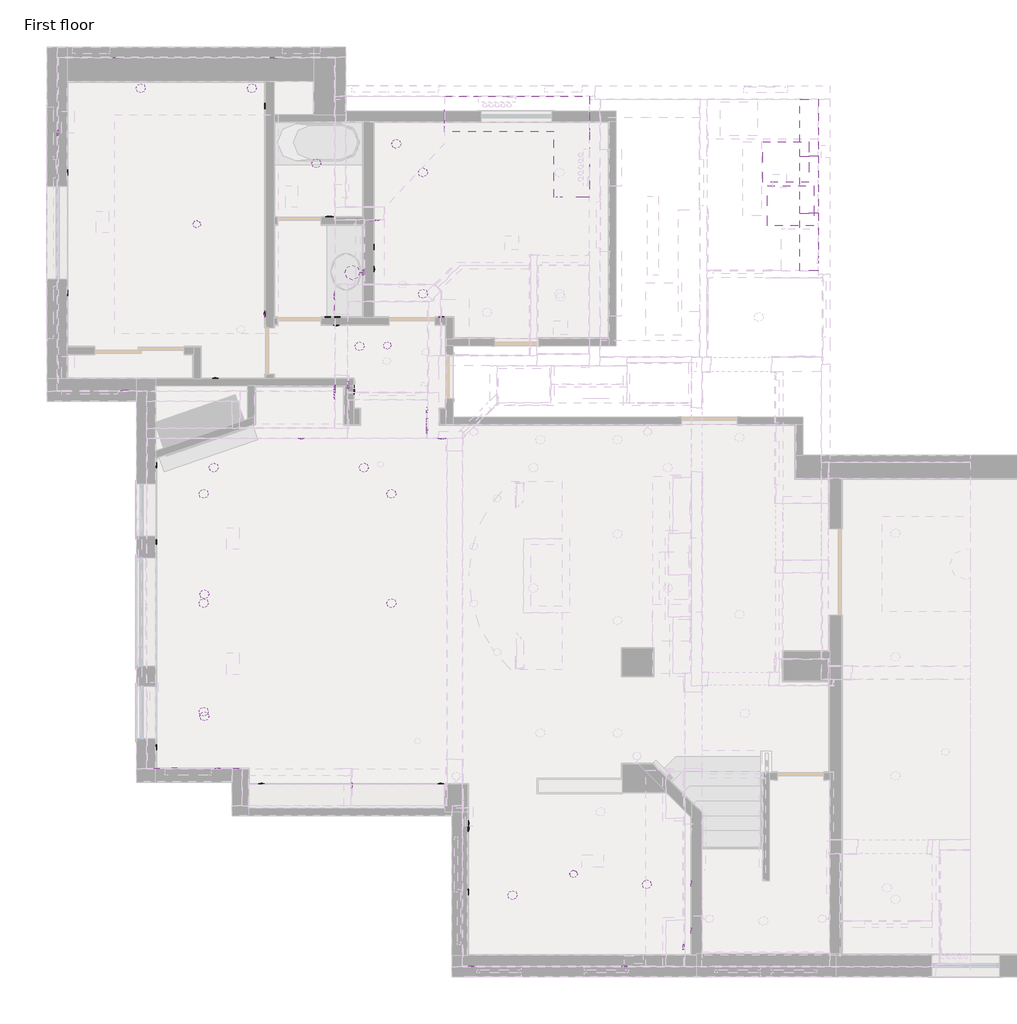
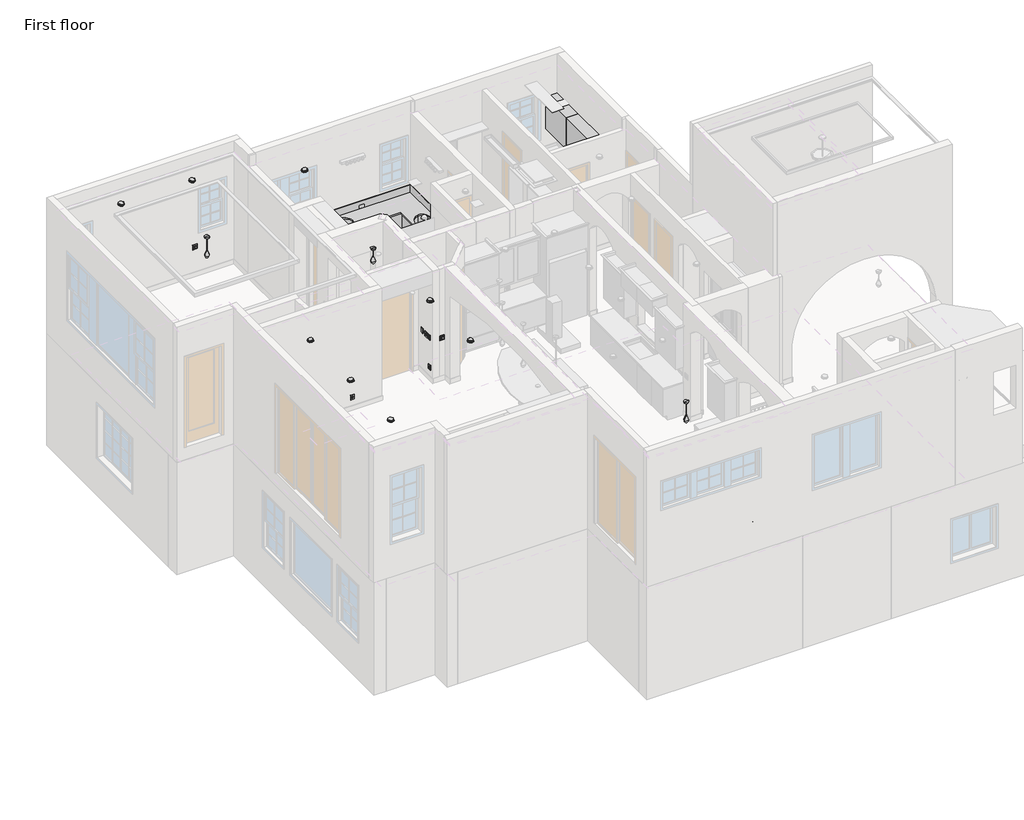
# One storey, part 12 of 14: 53 proxies, 22 light fixtures, 4 furniture elements.
"""IFC4 building model written with IfcOpenShell, lengths in millimetres."""

from ifc_helpers import new_model, si_unit, point, frame, origin, place, context, project, spatial, polyline, ellipse_curve, trimmed, outline, extrude, transform, mapped, element, save
from ifc_brep_helpers import plane_surface, extruded_surface, advanced_brep
from components import specialty_equipment_1_specialty_equipment_1_ee93a8f8, switch_1_switch_1_61bf59a5, switch_18_switch_18_b948fae5, switch_20_switch_20_01105299, switch_22_switch_22_d8a24c8f, switch_3_switch_3_40792009, switch_4_switch_4_f86bb9e3, switch_6_switch_6_ad3d04ee, casework_2_casework_2_be9bbc3e, lighting_fixtures_pendant_lamp_art_glass_led_light_7_c276613a, lighting_fixtures_pendant_lamp_art_glass_led_light_8_7261f393, m_recessed_lamp_round_led_light_2_4ee42974, m_wall_lamp_bracket_wall_light_1_86392911

model = new_model("IFC4")

# Units and contexts
model_context = context("Model", 3, world=origin())
ifc_project = project(units=[si_unit("LENGTHUNIT", "METRE", prefix="MILLI")], contexts=[model_context])

# Site, building, storey
site = spatial("IfcSite", under=ifc_project)
building = spatial("IfcBuilding", under=site)
storey = spatial("IfcBuildingStorey", under=building, Name="First floor", Elevation=0.0)

# Proxies
placement = place(None, origin())
specialty_equipment_1_specialty_equipment_1_shape = specialty_equipment_1_specialty_equipment_1_ee93a8f8(model_context)
element("IfcBuildingElementProxy", 1, Name="Specialty Equipment_1 : Specialty Equipment_1", ObjectType="Specialty Equipment_1 : Specialty Equipment_1", at=placement, inside=storey, context=model_context, shape_type="MappedRepresentation", body=[
    mapped(specialty_equipment_1_specialty_equipment_1_shape, transform((5105.4, 13392.0447939, 3251.2), x_axis=(0.0, 1.0, 0.0), y_axis=(-1.0, 0.0, 0.0), z_axis=(0.0, 0.0, 1.0))),
])
element("IfcBuildingElementProxy", 2, Name="Specialty Equipment_1 : Specialty Equipment_1", ObjectType="Specialty Equipment_1 : Specialty Equipment_1", at=placement, inside=storey, context=model_context, shape_type="MappedRepresentation", body=[
    mapped(specialty_equipment_1_specialty_equipment_1_shape, transform((5181.6, 12674.4947939, 3251.2), x_axis=(0.0, 1.0, 0.0), y_axis=(-1.0, 0.0, 0.0), z_axis=(0.0, 0.0, 1.0))),
])
switch_1_switch_1_shape = switch_1_switch_1_61bf59a5(model_context)
element("IfcBuildingElementProxy", 3, Name="Switch 1 : Switch 1", ObjectType="Switch 1 : Switch 1", at=placement, inside=storey, context=model_context, shape_type="MappedRepresentation", body=[
    mapped(switch_1_switch_1_shape, transform((-4876.7823944, 8411.963, 1104.9), x_axis=(0.0, -1.0, 0.0), y_axis=(1.0, 0.0, 0.0), z_axis=(0.0, 0.0, 1.0))),
])
element("IfcBuildingElementProxy", 4, Name="Switch 1 : Switch 1", ObjectType="Switch 1 : Switch 1", at=placement, inside=storey, context=model_context, shape_type="MappedRepresentation", body=[
    mapped(switch_1_switch_1_shape, transform((-1612.9, 9672.837, 292.1), x_axis=(0.0, 1.0, 0.0), y_axis=(-1.0, 0.0, 0.0), z_axis=(0.0, 0.0, 1.0))),
])
element("IfcBuildingElementProxy", 5, Name="Switch 1 : Switch 1", ObjectType="Switch 1 : Switch 1", at=placement, inside=storey, context=model_context, shape_type="MappedRepresentation", body=[
    mapped(switch_1_switch_1_shape, transform((-3073.4, 10892.037, 1320.8), x_axis=(0.0, 1.0, 0.0), y_axis=(-1.0, 0.0, 0.0), z_axis=(0.0, 0.0, 1.0))),
])
element("IfcBuildingElementProxy", 6, Name="Switch 1 : Switch 1", ObjectType="Switch 1 : Switch 1", at=placement, inside=storey, context=model_context, shape_type="MappedRepresentation", body=[
    mapped(switch_1_switch_1_shape, transform((-1896.863, 10833.1, 1079.5), x_axis=(1.0, 0.0, 0.0), y_axis=(0.0, 1.0, 0.0), z_axis=(0.0, 0.0, 1.0))),
])
element("IfcBuildingElementProxy", 7, Name="Switch 1 : Switch 1", ObjectType="Switch 1 : Switch 1", at=placement, inside=storey, context=model_context, shape_type="MappedRepresentation", body=[
    mapped(switch_1_switch_1_shape, transform((-182.363, 10833.1, 1282.7), x_axis=(1.0, 0.0, 0.0), y_axis=(0.0, 1.0, 0.0), z_axis=(0.0, 0.0, 1.0))),
])
element("IfcBuildingElementProxy", 8, Name="Switch 1 : Switch 1", ObjectType="Switch 1 : Switch 1", at=placement, inside=storey, context=model_context, shape_type="MappedRepresentation", body=[
    mapped(switch_1_switch_1_shape, transform((-1295.4, 11999.713, 292.1), x_axis=(0.0, -1.0, 0.0), y_axis=(1.0, 0.0, 0.0), z_axis=(0.0, 0.0, 1.0))),
])
element("IfcBuildingElementProxy", 9, Name="Switch 1 : Switch 1", ObjectType="Switch 1 : Switch 1", at=placement, inside=storey, context=model_context, shape_type="MappedRepresentation", body=[
    mapped(switch_1_switch_1_shape, transform((3936.9996704, 1525.787, 1384.3), x_axis=(0.0, 1.0, 0.0), y_axis=(-1.0, 0.0, 0.0), z_axis=(0.0, 0.0, 1.0))),
])
element("IfcBuildingElementProxy", 10, Name="Switch 1 : Switch 1", ObjectType="Switch 1 : Switch 1", at=placement, inside=storey, context=model_context, shape_type="MappedRepresentation", body=[
    mapped(switch_1_switch_1_shape, transform((3936.9996704, 757.437, 1384.3), x_axis=(0.0, 1.0, 0.0), y_axis=(-1.0, 0.0, 0.0), z_axis=(0.0, 0.0, 1.0))),
])
element("IfcBuildingElementProxy", 11, Name="Switch 1 : Switch 1", ObjectType="Switch 1 : Switch 1", at=placement, inside=storey, context=model_context, shape_type="MappedRepresentation", body=[
    mapped(switch_1_switch_1_shape, transform((-1924.05, 11222.237, 3543.3), x_axis=(0.0, 1.0, 0.0), y_axis=(-1.0, 0.0, 0.0), z_axis=(0.0, 0.0, 1.0))),
])
element("IfcBuildingElementProxy", 12, Name="Switch 1 : Switch 1", ObjectType="Switch 1 : Switch 1", at=placement, inside=storey, context=model_context, shape_type="MappedRepresentation", body=[
    mapped(switch_1_switch_1_shape, transform((-1924.05, 10993.637, 4305.3), x_axis=(0.0, 1.0, 0.0), y_axis=(-1.0, 0.0, 0.0), z_axis=(0.0, 0.0, 1.0))),
])
element("IfcBuildingElementProxy", 13, Name="Switch 1 : Switch 1", ObjectType="Switch 1 : Switch 1", at=placement, inside=storey, context=model_context, shape_type="MappedRepresentation", body=[
    mapped(switch_1_switch_1_shape, transform((-3554.213, 3416.3, 3581.4), x_axis=(1.0, 0.0, 0.0), y_axis=(0.0, 1.0, 0.0), z_axis=(0.0, 0.0, 1.0))),
])
element("IfcBuildingElementProxy", 14, Name="Switch 1 : Switch 1", ObjectType="Switch 1 : Switch 1", at=placement, inside=storey, context=model_context, shape_type="MappedRepresentation", body=[
    mapped(switch_1_switch_1_shape, transform((-4862.313, 3416.3, 3556.0), x_axis=(1.0, 0.0, 0.0), y_axis=(0.0, 1.0, 0.0), z_axis=(0.0, 0.0, 1.0))),
])
element("IfcBuildingElementProxy", 15, Name="Switch 1 : Switch 1", ObjectType="Switch 1 : Switch 1", at=placement, inside=storey, context=model_context, shape_type="MappedRepresentation", body=[
    mapped(switch_1_switch_1_shape, transform((-406.4, 9310.887, 4356.1), x_axis=(0.0, 1.0, 0.0), y_axis=(-1.0, 0.0, 0.0), z_axis=(0.0, 0.0, 1.0))),
])
switch_18_switch_18_shape = switch_18_switch_18_b948fae5(model_context)
element("IfcBuildingElementProxy", 16, Name="Switch 18 : Switch 18", ObjectType="Switch 18 : Switch 18", at=placement, inside=storey, context=model_context, shape_type="MappedRepresentation", body=[
    mapped(switch_18_switch_18_shape, transform((3810.0, 492.4529797, 4330.7), x_axis=(0.0, 1.0, 0.0), y_axis=(-1.0, 0.0, 0.0), z_axis=(0.0, 0.0, 1.0))),
])
switch_20_switch_20_shape = switch_20_switch_20_01105299(model_context)
element("IfcBuildingElementProxy", 17, Name="Switch 20 : Switch 20", ObjectType="Switch 20 : Switch 20", at=placement, inside=storey, context=model_context, shape_type="MappedRepresentation", body=[
    mapped(switch_20_switch_20_shape, transform((254.0176056, 2472.3806452, 977.9), x_axis=(0.0, -1.0, 0.0), y_axis=(1.0, 0.0, 0.0), z_axis=(0.0, 0.0, 1.0))),
])
switch_22_switch_22_shape = switch_22_switch_22_d8a24c8f(model_context)
element("IfcBuildingElementProxy", 18, Name="Switch 22 : Switch 22", ObjectType="Switch 22 : Switch 22", at=placement, inside=storey, context=model_context, shape_type="MappedRepresentation", body=[
    mapped(switch_22_switch_22_shape, transform((-1924.05, 9583.982358, 4318.0), x_axis=(0.0, 1.0, 0.0), y_axis=(-1.0, 0.0, 0.0), z_axis=(0.0, 0.0, 1.0))),
])
element("IfcBuildingElementProxy", 19, Name="Switch 22 : Switch 22", ObjectType="Switch 22 : Switch 22", at=placement, inside=storey, context=model_context, shape_type="MappedRepresentation", body=[
    mapped(switch_22_switch_22_shape, transform((-1284.532358, 12445.8947939, 4254.5), x_axis=(-1.0, 0.0, 0.0), y_axis=(0.0, -1.0, 0.0), z_axis=(0.0, 0.0, 1.0))),
])
element("IfcBuildingElementProxy", 20, Name="Switch 22 : Switch 22", ObjectType="Switch 22 : Switch 22", at=placement, inside=storey, context=model_context, shape_type="MappedRepresentation", body=[
    mapped(switch_22_switch_22_shape, transform((-406.4, 9056.932358, 4356.1), x_axis=(0.0, 1.0, 0.0), y_axis=(-1.0, 0.0, 0.0), z_axis=(0.0, 0.0, 1.0))),
])
switch_3_switch_3_shape = switch_3_switch_3_40792009(model_context)
element("IfcBuildingElementProxy", 21, Name="Switch 3 : Switch 3", ObjectType="Switch 3 : Switch 3", at=placement, inside=storey, context=model_context, shape_type="MappedRepresentation", body=[
    mapped(switch_3_switch_3_shape, transform((-3073.4, 10900.4771692, 1079.5), x_axis=(0.0, 1.0, 0.0), y_axis=(-1.0, 0.0, 0.0), z_axis=(0.0, 0.0, 1.0))),
])
element("IfcBuildingElementProxy", 22, Name="Switch 3 : Switch 3", ObjectType="Switch 3 : Switch 3", at=placement, inside=storey, context=model_context, shape_type="MappedRepresentation", body=[
    mapped(switch_3_switch_3_shape, transform((-2040.8228308, 10833.1, 1079.5), x_axis=(1.0, 0.0, 0.0), y_axis=(0.0, 1.0, 0.0), z_axis=(0.0, 0.0, 1.0))),
])
element("IfcBuildingElementProxy", 23, Name="Switch 3 : Switch 3", ObjectType="Switch 3 : Switch 3", at=placement, inside=storey, context=model_context, shape_type="MappedRepresentation", body=[
    mapped(switch_3_switch_3_shape, transform((-173.9228308, 10833.1, 1079.5), x_axis=(1.0, 0.0, 0.0), y_axis=(0.0, 1.0, 0.0), z_axis=(0.0, 0.0, 1.0))),
])
element("IfcBuildingElementProxy", 24, Name="Switch 3 : Switch 3", ObjectType="Switch 3 : Switch 3", at=placement, inside=storey, context=model_context, shape_type="MappedRepresentation", body=[
    mapped(switch_3_switch_3_shape, transform((-3850.5728308, 3416.3, 4356.1), x_axis=(1.0, 0.0, 0.0), y_axis=(0.0, 1.0, 0.0), z_axis=(0.0, 0.0, 1.0))),
])
switch_4_switch_4_shape = switch_4_switch_4_f86bb9e3(model_context)
element("IfcBuildingElementProxy", 25, Name="Switch 4 : Switch 4", ObjectType="Switch 4 : Switch 4", at=placement, inside=storey, context=model_context, shape_type="MappedRepresentation", body=[
    mapped(switch_4_switch_4_shape, transform((-4876.8, 7146.5970203, 292.1006729), x_axis=(0.0, -1.0, 0.0), y_axis=(1.0, 0.0, 0.0), z_axis=(0.0, 0.0, 1.0))),
])
element("IfcBuildingElementProxy", 26, Name="Switch 4 : Switch 4", ObjectType="Switch 4 : Switch 4", at=placement, inside=storey, context=model_context, shape_type="MappedRepresentation", body=[
    mapped(switch_4_switch_4_shape, transform((-4876.8, 3768.3970203, 292.1006729), x_axis=(0.0, -1.0, 0.0), y_axis=(1.0, 0.0, 0.0), z_axis=(0.0, 0.0, 1.0))),
])
element("IfcBuildingElementProxy", 27, Name="Switch 4 : Switch 4", ObjectType="Switch 4 : Switch 4", at=placement, inside=storey, context=model_context, shape_type="MappedRepresentation", body=[
    mapped(switch_4_switch_4_shape, transform((-4568.4970203, 3416.3, 292.1006729), x_axis=(1.0, 0.0, 0.0), y_axis=(0.0, 1.0, 0.0), z_axis=(0.0, 0.0, 1.0))),
])
element("IfcBuildingElementProxy", 28, Name="Switch 4 : Switch 4", ObjectType="Switch 4 : Switch 4", at=placement, inside=storey, context=model_context, shape_type="MappedRepresentation", body=[
    mapped(switch_4_switch_4_shape, transform((-3133.3970203, 3162.3176056, 292.1006729), x_axis=(1.0, 0.0, 0.0), y_axis=(0.0, 1.0, 0.0), z_axis=(0.0, 0.0, 1.0))),
])
element("IfcBuildingElementProxy", 29, Name="Switch 4 : Switch 4", ObjectType="Switch 4 : Switch 4", at=placement, inside=storey, context=model_context, shape_type="MappedRepresentation", body=[
    mapped(switch_4_switch_4_shape, transform((-186.9970203, 3162.3, 292.1006729), x_axis=(1.0, 0.0, 0.0), y_axis=(0.0, 1.0, 0.0), z_axis=(0.0, 0.0, 1.0))),
])
element("IfcBuildingElementProxy", 30, Name="Switch 4 : Switch 4", ObjectType="Switch 4 : Switch 4", at=placement, inside=storey, context=model_context, shape_type="MappedRepresentation", body=[
    mapped(switch_4_switch_4_shape, transform((254.0, 1387.1470203, 292.1006729), x_axis=(0.0, -1.0, 0.0), y_axis=(1.0, 0.0, 0.0), z_axis=(0.0, 0.0, 1.0))),
])
element("IfcBuildingElementProxy", 31, Name="Switch 4 : Switch 4", ObjectType="Switch 4 : Switch 4", at=placement, inside=storey, context=model_context, shape_type="MappedRepresentation", body=[
    mapped(switch_4_switch_4_shape, transform((-1908.5029797, 10718.8, 292.1), x_axis=(-1.0, 0.0, 0.0), y_axis=(0.0, -1.0, 0.0), z_axis=(0.0, 0.0, 1.0))),
])
element("IfcBuildingElementProxy", 32, Name="Switch 4 : Switch 4", ObjectType="Switch 4 : Switch 4", at=placement, inside=storey, context=model_context, shape_type="MappedRepresentation", body=[
    mapped(switch_4_switch_4_shape, transform((-3895.3970203, 9829.8, 292.1), x_axis=(1.0, 0.0, 0.0), y_axis=(0.0, 1.0, 0.0), z_axis=(0.0, 0.0, 1.0))),
])
element("IfcBuildingElementProxy", 33, Name="Switch 4 : Switch 4", ObjectType="Switch 4 : Switch 4", at=placement, inside=storey, context=model_context, shape_type="MappedRepresentation", body=[
    mapped(switch_4_switch_4_shape, transform((-3073.4, 14316.4029797, 292.1), x_axis=(0.0, 1.0, 0.0), y_axis=(-1.0, 0.0, 0.0), z_axis=(0.0, 0.0, 1.0))),
])
element("IfcBuildingElementProxy", 34, Name="Switch 4 : Switch 4", ObjectType="Switch 4 : Switch 4", at=placement, inside=storey, context=model_context, shape_type="MappedRepresentation", body=[
    mapped(switch_4_switch_4_shape, transform((-6337.3, 13217.1970203, 292.1), x_axis=(0.0, -1.0, 0.0), y_axis=(1.0, 0.0, 0.0), z_axis=(0.0, 0.0, 1.0))),
])
element("IfcBuildingElementProxy", 35, Name="Switch 4 : Switch 4", ObjectType="Switch 4 : Switch 4", at=placement, inside=storey, context=model_context, shape_type="MappedRepresentation", body=[
    mapped(switch_4_switch_4_shape, transform((-6337.3, 11235.9970203, 292.1), x_axis=(0.0, -1.0, 0.0), y_axis=(1.0, 0.0, 0.0), z_axis=(0.0, 0.0, 1.0))),
])
element("IfcBuildingElementProxy", 36, Name="Switch 4 : Switch 4", ObjectType="Switch 4 : Switch 4", at=placement, inside=storey, context=model_context, shape_type="MappedRepresentation", body=[
    mapped(switch_4_switch_4_shape, transform((-1295.4, 11629.6970203, 292.1), x_axis=(0.0, -1.0, 0.0), y_axis=(1.0, 0.0, 0.0), z_axis=(0.0, 0.0, 1.0))),
])
element("IfcBuildingElementProxy", 37, Name="Switch 4 : Switch 4", ObjectType="Switch 4 : Switch 4", at=placement, inside=storey, context=model_context, shape_type="MappedRepresentation", body=[
    mapped(switch_4_switch_4_shape, transform((-5537.2, 15113.0, 4000.5), x_axis=(-1.0, 0.0, 0.0), y_axis=(0.0, -1.0, 0.0), z_axis=(0.0, 0.0, 1.0))),
])
element("IfcBuildingElementProxy", 38, Name="Switch 4 : Switch 4", ObjectType="Switch 4 : Switch 4", at=placement, inside=storey, context=model_context, shape_type="MappedRepresentation", body=[
    mapped(switch_4_switch_4_shape, transform((-6496.05, 13864.8970203, 3543.3), x_axis=(0.0, -1.0, 0.0), y_axis=(1.0, 0.0, 0.0), z_axis=(0.0, 0.0, 1.0))),
])
element("IfcBuildingElementProxy", 39, Name="Switch 4 : Switch 4", ObjectType="Switch 4 : Switch 4", at=placement, inside=storey, context=model_context, shape_type="MappedRepresentation", body=[
    mapped(switch_4_switch_4_shape, transform((-5397.5, 9626.6, 3543.3), x_axis=(1.0, 0.0, 0.0), y_axis=(0.0, 1.0, 0.0), z_axis=(0.0, 0.0, 1.0))),
])
element("IfcBuildingElementProxy", 40, Name="Switch 4 : Switch 4", ObjectType="Switch 4 : Switch 4", at=placement, inside=storey, context=model_context, shape_type="MappedRepresentation", body=[
    mapped(switch_4_switch_4_shape, transform((-1924.05, 9693.6029797, 3543.3), x_axis=(0.0, 1.0, 0.0), y_axis=(-1.0, 0.0, 0.0), z_axis=(0.0, 0.0, 1.0))),
])
element("IfcBuildingElementProxy", 41, Name="Switch 4 : Switch 4", ObjectType="Switch 4 : Switch 4", at=placement, inside=storey, context=model_context, shape_type="MappedRepresentation", body=[
    mapped(switch_4_switch_4_shape, transform((-1924.05, 11001.7029797, 3543.3), x_axis=(0.0, 1.0, 0.0), y_axis=(-1.0, 0.0, 0.0), z_axis=(0.0, 0.0, 1.0))),
])
element("IfcBuildingElementProxy", 42, Name="Switch 4 : Switch 4", ObjectType="Switch 4 : Switch 4", at=placement, inside=storey, context=model_context, shape_type="MappedRepresentation", body=[
    mapped(switch_4_switch_4_shape, transform((-1663.7, 3139.7470203, 3543.3006729), x_axis=(0.0, -1.0, 0.0), y_axis=(1.0, 0.0, 0.0), z_axis=(0.0, 0.0, 1.0))),
])
element("IfcBuildingElementProxy", 43, Name="Switch 4 : Switch 4", ObjectType="Switch 4 : Switch 4", at=placement, inside=storey, context=model_context, shape_type="MappedRepresentation", body=[
    mapped(switch_4_switch_4_shape, transform((-2492.7029797, 8851.9, 3543.3006729), x_axis=(-1.0, 0.0, 0.0), y_axis=(0.0, -1.0, 0.0), z_axis=(0.0, 0.0, 1.0))),
])
element("IfcBuildingElementProxy", 44, Name="Switch 4 : Switch 4", ObjectType="Switch 4 : Switch 4", at=placement, inside=storey, context=model_context, shape_type="MappedRepresentation", body=[
    mapped(switch_4_switch_4_shape, transform((-406.4, 8985.25, 3556.0), x_axis=(0.0, 1.0, 0.0), y_axis=(-1.0, 0.0, 0.0), z_axis=(0.0, 0.0, 1.0))),
])
element("IfcBuildingElementProxy", 45, Name="Switch 4 : Switch 4", ObjectType="Switch 4 : Switch 4", at=placement, inside=storey, context=model_context, shape_type="MappedRepresentation", body=[
    mapped(switch_4_switch_4_shape, transform((2835.6029797, 165.1, 3543.3), x_axis=(1.0, 0.0, 0.0), y_axis=(0.0, 1.0, 0.0), z_axis=(0.0, 0.0, 1.0))),
])
element("IfcBuildingElementProxy", 46, Name="Switch 4 : Switch 4", ObjectType="Switch 4 : Switch 4", at=placement, inside=storey, context=model_context, shape_type="MappedRepresentation", body=[
    mapped(switch_4_switch_4_shape, transform((314.6529797, 165.1, 3543.3), x_axis=(1.0, 0.0, 0.0), y_axis=(0.0, 1.0, 0.0), z_axis=(0.0, 0.0, 1.0))),
])
switch_6_switch_6_shape = switch_6_switch_6_ad3d04ee(model_context)
element("IfcBuildingElementProxy", 47, Name="Switch 6 : Switch 6", ObjectType="Switch 6 : Switch 6", at=placement, inside=storey, context=model_context, shape_type="MappedRepresentation", body=[
    mapped(switch_6_switch_6_shape, transform((-1625.6, 9637.8192501, 1066.8), x_axis=(0.0, -1.0, 0.0), y_axis=(1.0, 0.0, 0.0), z_axis=(0.0, 0.0, 1.0))),
])
element("IfcBuildingElementProxy", 48, Name="Switch 6 : Switch 6", ObjectType="Switch 6 : Switch 6", at=placement, inside=storey, context=model_context, shape_type="MappedRepresentation", body=[
    mapped(switch_6_switch_6_shape, transform((-2017.8192501, 12484.1, 1079.5), x_axis=(1.0, 0.0, 0.0), y_axis=(0.0, 1.0, 0.0), z_axis=(0.0, 0.0, 1.0))),
])
element("IfcBuildingElementProxy", 49, Name="Switch 6 : Switch 6", ObjectType="Switch 6 : Switch 6", at=placement, inside=storey, context=model_context, shape_type="MappedRepresentation", body=[
    mapped(switch_6_switch_6_shape, transform((-2935.1807499, 15113.0, 4000.5), x_axis=(-1.0, 0.0, 0.0), y_axis=(0.0, -1.0, 0.0), z_axis=(0.0, 0.0, 1.0))),
])
element("IfcBuildingElementProxy", 50, Name="Switch 6 : Switch 6", ObjectType="Switch 6 : Switch 6", at=placement, inside=storey, context=model_context, shape_type="MappedRepresentation", body=[
    mapped(switch_6_switch_6_shape, transform((-1924.05, 11196.5307499, 4305.3), x_axis=(0.0, 1.0, 0.0), y_axis=(-1.0, 0.0, 0.0), z_axis=(0.0, 0.0, 1.0))),
])
element("IfcBuildingElementProxy", 51, Name="Switch 6 : Switch 6", ObjectType="Switch 6 : Switch 6", at=placement, inside=storey, context=model_context, shape_type="MappedRepresentation", body=[
    mapped(switch_6_switch_6_shape, transform((-1720.85, 9726.7192501, 4305.3), x_axis=(0.0, -1.0, 0.0), y_axis=(1.0, 0.0, 0.0), z_axis=(0.0, 0.0, 1.0))),
])
element("IfcBuildingElementProxy", 52, Name="Switch 6 : Switch 6", ObjectType="Switch 6 : Switch 6", at=placement, inside=storey, context=model_context, shape_type="MappedRepresentation", body=[
    mapped(switch_6_switch_6_shape, transform((-5376.9692501, 9626.6, 4305.3), x_axis=(1.0, 0.0, 0.0), y_axis=(0.0, 1.0, 0.0), z_axis=(0.0, 0.0, 1.0))),
])
element("IfcBuildingElementProxy", 53, Name="Switch 6 : Switch 6", ObjectType="Switch 6 : Switch 6", at=placement, inside=storey, context=model_context, shape_type="MappedRepresentation", body=[
    mapped(switch_6_switch_6_shape, transform((-179.2807499, 8851.9, 4356.1), x_axis=(-1.0, 0.0, 0.0), y_axis=(0.0, -1.0, 0.0), z_axis=(0.0, 0.0, 1.0))),
])

# Furniture
element("IfcFurniture", 54, ObjectType="Casework 2 : Casework 2", at=placement, inside=storey, context=model_context, shape_type="SolidModel", body=[
    advanced_brep(
    [(1727.2, 13925.4447939, 4089.4), (1727.2, 12814.1947939, 4089.4), (2260.6, 12814.1947939, 4089.4), (2260.6, 13944.4947939, 4089.4), (2260.6, 14477.8947939, 4089.4), (-127.0, 14477.8947939, 4089.4), (-127.0, 13925.4447939, 4089.4), (1962.1205148, 13608.8887118, 4089.4), (1962.1205148, 12999.2887118, 4089.4), (-19.2497096, 14165.6832952, 4089.4), (590.3502904, 14165.6832952, 4089.4), (-127.0, 14477.8947939, 3251.2), (2260.6, 14477.8947939, 3251.2), (2260.6, 13944.4947939, 3251.2), (2260.6, 12814.1947939, 3251.2), (1816.1, 12814.1947939, 3251.2), (1816.1, 14033.3947939, 3251.2), (-127.0, 14033.3947939, 3251.2), (1727.2, 12814.1947939, 3352.8), (1816.1, 12814.1947939, 3352.8), (-127.0, 14033.3947939, 3352.8), (-127.0, 13925.4447939, 3352.8), (1727.2, 13925.4447939, 3352.8), (1816.1, 14033.3947939, 3352.8), (-19.2497096, 14165.6832952, 3873.5), (590.3502904, 14165.6832952, 3873.5), (1962.1205148, 13608.8887118, 3873.5), (1962.1205148, 12999.2887118, 3873.5)],
    [
        (0, 1),
        (1, 2),
        (2, 3),
        (3, 4),
        (4, 5),
        (5, 6),
        (6, 0),
        (7, 8, ellipse_curve(frame((1962.1205148, 13304.0887118, 4089.4), z_axis=(0.0, 0.0, -1.0), x_axis=(0.0, -1.0, 0.0)), 304.8, 215.9)),
        (8, 7, ellipse_curve(frame((1962.1205148, 13304.0887118, 4089.4), z_axis=(0.0, 0.0, -1.0), x_axis=(0.0, -1.0, 0.0)), 304.8, 215.9)),
        (9, 10, ellipse_curve(frame((285.5502904, 14165.6832952, 4089.4), z_axis=(0.0, 0.0, -1.0), x_axis=(-1.0, 0.0, 0.0)), 304.8, 215.9)),
        (10, 9, ellipse_curve(frame((285.5502904, 14165.6832952, 4089.4), z_axis=(0.0, 0.0, -1.0), x_axis=(-1.0, 0.0, 0.0)), 304.8, 215.9)),
        (11, 12),
        (12, 13),
        (13, 14),
        (14, 15),
        (15, 16),
        (16, 17),
        (17, 11),
        (1, 18),
        (18, 19),
        (19, 15),
        (14, 2),
        (13, 3),
        (12, 4),
        (11, 5),
        (17, 20),
        (20, 21),
        (21, 6),
        (21, 22),
        (22, 0),
        (22, 18),
        (19, 23),
        (23, 16),
        (23, 20),
        (24, 25, ellipse_curve(frame((285.5502904, 14165.6832952, 3873.5), z_axis=(0.0, 0.0, 1.0), x_axis=(-1.0, 0.0, 0.0)), 304.8, 215.9)),
        (25, 24, ellipse_curve(frame((285.5502904, 14165.6832952, 3873.5), z_axis=(0.0, 0.0, 1.0), x_axis=(-1.0, 0.0, 0.0)), 304.8, 215.9)),
        (26, 27, ellipse_curve(frame((1962.1205148, 13304.0887118, 3873.5), z_axis=(0.0, 0.0, 1.0), x_axis=(0.0, -1.0, 0.0)), 304.8, 215.9)),
        (27, 26, ellipse_curve(frame((1962.1205148, 13304.0887118, 3873.5), z_axis=(0.0, 0.0, 1.0), x_axis=(0.0, -1.0, 0.0)), 304.8, 215.9)),
        (27, 8),
        (7, 26),
        (25, 10),
        (9, 24),
    ],
    [
        plane_surface(frame((1727.2, 13339.6572939, 4089.4), z_axis=(0.0, 0.0, 1.0), x_axis=(0.0, -1.0, 0.0))),
        plane_surface(frame((1727.2, 13339.6572939, 3251.2), z_axis=(0.0, 0.0, -1.0), x_axis=(0.0, 1.0, 0.0))),
        plane_surface(frame((1727.2, 12814.1947939, 4089.4), z_axis=(0.0, -1.0, 0.0), x_axis=(0.0, 0.0, -1.0))),
        plane_surface(frame((2260.6, 12814.1947939, 4089.4), z_axis=(1.0, 0.0, 0.0), x_axis=(0.0, 0.0, -1.0))),
        plane_surface(frame((2260.6, 13944.4947939, 4089.4), z_axis=(1.0, 0.0, 0.0), x_axis=(0.0, 0.0, -1.0))),
        plane_surface(frame((2260.6, 14477.8947939, 4089.4), z_axis=(0.0, 1.0, 0.0), x_axis=(0.0, 0.0, -1.0))),
        plane_surface(frame((-127.0, 14477.8947939, 4089.4), z_axis=(-1.0, 0.0, 0.0), x_axis=(0.0, 0.0, -1.0))),
        plane_surface(frame((-127.0, 13925.4447939, 4089.4), z_axis=(0.0, -1.0, 0.0), x_axis=(0.0, 0.0, -1.0))),
        plane_surface(frame((1727.2, 13925.4447939, 4089.4), z_axis=(-1.0, 0.0, 0.0), x_axis=(0.0, 0.0, -1.0))),
        plane_surface(frame((1816.1, 12814.1947939, 3352.8), z_axis=(-1.0, 0.0, 0.0), x_axis=(0.0, 0.0, -1.0))),
        plane_surface(frame((1816.1, 14033.3947939, 3251.2), z_axis=(0.0, -1.0, 0.0), x_axis=(-1.0, 0.0, 0.0))),
        plane_surface(frame((1816.1, 14033.3947939, 3352.8), z_axis=(0.0, 0.0, -1.0), x_axis=(-1.0, 0.0, 0.0))),
        plane_surface(frame((-19.2497096, 14165.6832952, 3873.5), z_axis=(0.0, 0.0, 1.0), x_axis=(0.0, 1.0, 0.0))),
        plane_surface(frame((1962.1205148, 12999.2887118, 3873.5), z_axis=(0.0, 0.0, 1.0), x_axis=(-1.0, 0.0, 0.0))),
        extruded_surface(trimmed(ellipse_curve(frame((1962.1205148, 13304.0887118, 4127.5), z_axis=(0.0, 0.0, -1.0), x_axis=(0.0, -1.0, 0.0)), 304.8, 215.9), [point((1962.1205148, 13608.8887118, 4127.5))], [point((1962.1205148, 12999.2887118, 4127.5))], True, "CARTESIAN"), (0.0, 0.0, 254.0), 254.0),
        extruded_surface(trimmed(ellipse_curve(frame((1962.1205148, 13304.0887118, 4127.5), z_axis=(0.0, 0.0, -1.0), x_axis=(0.0, -1.0, 0.0)), 304.8, 215.9), [point((1962.1205148, 12999.2887118, 4127.5))], [point((1962.1205148, 13608.8887118, 4127.5))], True, "CARTESIAN"), (0.0, 0.0, 254.0), 254.0),
        extruded_surface(trimmed(ellipse_curve(frame((285.5502904, 14165.6832952, 4127.5), z_axis=(0.0, 0.0, -1.0), x_axis=(-1.0, 0.0, 0.0)), 304.8, 215.9), [point((-19.2497096, 14165.6832952, 4127.5))], [point((590.3502904, 14165.6832952, 4127.5))], True, "CARTESIAN"), (0.0, 0.0, 254.0), 254.0),
        extruded_surface(trimmed(ellipse_curve(frame((285.5502904, 14165.6832952, 4127.5), z_axis=(0.0, 0.0, -1.0), x_axis=(-1.0, 0.0, 0.0)), 304.8, 215.9), [point((590.3502904, 14165.6832952, 4127.5))], [point((-19.2497096, 14165.6832952, 4127.5))], True, "CARTESIAN"), (0.0, 0.0, 254.0), 254.0),
    ],
    [
        (0, [[1, 2, 3, 4, 5, 6, 7], [8, 9], [10, 11]]),
        (1, [[12, 13, 14, 15, 16, 17, 18]]),
        (2, [[-2, 19, 20, 21, -15, 22]]),
        (3, [[-3, -22, -14, 23]]),
        (4, [[-4, -23, -13, 24]]),
        (5, [[-5, -24, -12, 25]]),
        (6, [[-6, -25, -18, 26, 27, 28]]),
        (7, [[-7, -28, 29, 30]]),
        (8, [[-1, -30, 31, -19]]),
        (9, [[32, 33, -16, -21]]),
        (10, [[-33, 34, -26, -17]]),
        (11, [[-32, -20, -31, -29, -27, -34]]),
        (12, [[35, 36]]),
        (13, [[37, 38]]),
        (14, [[-38, 39, -8, 40]]),
        (15, [[-37, -40, -9, -39]]),
        (16, [[-36, 41, -10, 42]]),
        (17, [[-35, -42, -11, -41]]),
    ],
),
    extrude(outline(polyline([(2260.6, 14477.8947939), (2260.6, 12814.1947939), (2247.9, 12814.1947939), (2247.9, 14465.1947939), (-127.0, 14465.1947939), (-127.0, 14477.8947939), (2260.6, 14477.8947939)])), frame((0.0, 0.0, 4127.5), z_axis=(0.0, 0.0, 1.0), x_axis=(1.0, 0.0, 0.0)), (0.0, 0.0, 1.0), 203.2),
    advanced_brep(
    [(2260.6, 14477.8947939, 4127.5), (-127.0, 14477.8947939, 4127.5), (-127.0, 13893.6947939, 4127.5), (1676.4, 13893.6947939, 4127.5), (1676.4, 12814.1947939, 4127.5), (2260.6, 12814.1947939, 4127.5), (2260.6, 13893.6947939, 4127.5), (1962.1205148, 13608.8887118, 4127.5), (1962.1205148, 12999.2887118, 4127.5), (-19.2497096, 14165.6832952, 4127.5), (590.3502904, 14165.6832952, 4127.5), (2260.6, 14477.8947939, 4089.4), (2260.6, 13893.6947939, 4089.4), (2260.6, 12814.1947939, 4089.4), (1676.4, 12814.1947939, 4089.4), (1676.4, 13893.6947939, 4089.4), (-127.0, 13893.6947939, 4089.4), (-127.0, 14477.8947939, 4089.4), (1962.1205148, 12999.2887118, 4089.4), (1962.1205148, 13608.8887118, 4089.4), (590.3502904, 14165.6832952, 4089.4), (-19.2497096, 14165.6832952, 4089.4)],
    [
        (0, 1),
        (1, 2),
        (2, 3),
        (3, 4),
        (4, 5),
        (5, 6),
        (6, 0),
        (7, 8, ellipse_curve(frame((1962.1205148, 13304.0887118, 4127.5), z_axis=(0.0, 0.0, -1.0), x_axis=(0.0, -1.0, 0.0)), 304.8, 215.9)),
        (8, 7, ellipse_curve(frame((1962.1205148, 13304.0887118, 4127.5), z_axis=(0.0, 0.0, -1.0), x_axis=(0.0, -1.0, 0.0)), 304.8, 215.9)),
        (9, 10, ellipse_curve(frame((285.5502904, 14165.6832952, 4127.5), z_axis=(0.0, 0.0, -1.0), x_axis=(-1.0, 0.0, 0.0)), 304.8, 215.9)),
        (10, 9, ellipse_curve(frame((285.5502904, 14165.6832952, 4127.5), z_axis=(0.0, 0.0, -1.0), x_axis=(-1.0, 0.0, 0.0)), 304.8, 215.9)),
        (11, 12),
        (12, 13),
        (13, 14),
        (14, 15),
        (15, 16),
        (16, 17),
        (17, 11),
        (18, 19, ellipse_curve(frame((1962.1205148, 13304.0887118, 4089.4), z_axis=(0.0, 0.0, 1.0), x_axis=(0.0, -1.0, 0.0)), 304.8, 215.9)),
        (19, 18, ellipse_curve(frame((1962.1205148, 13304.0887118, 4089.4), z_axis=(0.0, 0.0, 1.0), x_axis=(0.0, -1.0, 0.0)), 304.8, 215.9)),
        (20, 21, ellipse_curve(frame((285.5502904, 14165.6832952, 4089.4), z_axis=(0.0, 0.0, 1.0), x_axis=(-1.0, 0.0, 0.0)), 304.8, 215.9)),
        (21, 20, ellipse_curve(frame((285.5502904, 14165.6832952, 4089.4), z_axis=(0.0, 0.0, 1.0), x_axis=(-1.0, 0.0, 0.0)), 304.8, 215.9)),
        (0, 11),
        (17, 1),
        (16, 2),
        (15, 3),
        (14, 4),
        (13, 5),
        (12, 6),
        (7, 19),
        (18, 8),
        (9, 21),
        (20, 10),
    ],
    [
        plane_surface(frame((-127.0, 14477.8947939, 4127.5), z_axis=(0.0, 0.0, 1.0), x_axis=(-1.0, 0.0, 0.0))),
        plane_surface(frame((-127.0, 14477.8947939, 4089.4), z_axis=(0.0, 0.0, -1.0), x_axis=(1.0, 0.0, 0.0))),
        plane_surface(frame((2260.6, 14477.8947939, 4127.5), z_axis=(0.0, 1.0, 0.0), x_axis=(0.0, 0.0, -1.0))),
        plane_surface(frame((-127.0, 14477.8947939, 4127.5), z_axis=(-1.0, 0.0, 0.0), x_axis=(0.0, 0.0, -1.0))),
        plane_surface(frame((-127.0, 13893.6947939, 4127.5), z_axis=(0.0, -1.0, 0.0), x_axis=(0.0, 0.0, -1.0))),
        plane_surface(frame((1676.4, 13893.6947939, 4127.5), z_axis=(-1.0, 0.0, 0.0), x_axis=(0.0, 0.0, -1.0))),
        plane_surface(frame((1676.4, 12814.1947939, 4127.5), z_axis=(0.0, -1.0, 0.0), x_axis=(0.0, 0.0, -1.0))),
        plane_surface(frame((2260.6, 12814.1947939, 4127.5), z_axis=(1.0, 0.0, 0.0), x_axis=(0.0, 0.0, -1.0))),
        plane_surface(frame((2260.6, 13893.6947939, 4127.5), z_axis=(1.0, 0.0, 0.0), x_axis=(0.0, 0.0, -1.0))),
        extruded_surface(trimmed(ellipse_curve(frame((1962.1205148, 13304.0887118, 4127.5), z_axis=(0.0, 0.0, -1.0), x_axis=(0.0, -1.0, 0.0)), 304.8, 215.9), [point((1962.1205148, 13608.8887118, 4127.5))], [point((1962.1205148, 12999.2887118, 4127.5))], True, "CARTESIAN"), (0.0, 0.0, 254.0), 254.0),
        extruded_surface(trimmed(ellipse_curve(frame((1962.1205148, 13304.0887118, 4127.5), z_axis=(0.0, 0.0, -1.0), x_axis=(0.0, -1.0, 0.0)), 304.8, 215.9), [point((1962.1205148, 12999.2887118, 4127.5))], [point((1962.1205148, 13608.8887118, 4127.5))], True, "CARTESIAN"), (0.0, 0.0, 254.0), 254.0),
        extruded_surface(trimmed(ellipse_curve(frame((285.5502904, 14165.6832952, 4127.5), z_axis=(0.0, 0.0, -1.0), x_axis=(-1.0, 0.0, 0.0)), 304.8, 215.9), [point((-19.2497096, 14165.6832952, 4127.5))], [point((590.3502904, 14165.6832952, 4127.5))], True, "CARTESIAN"), (0.0, 0.0, 254.0), 254.0),
        extruded_surface(trimmed(ellipse_curve(frame((285.5502904, 14165.6832952, 4127.5), z_axis=(0.0, 0.0, -1.0), x_axis=(-1.0, 0.0, 0.0)), 304.8, 215.9), [point((590.3502904, 14165.6832952, 4127.5))], [point((-19.2497096, 14165.6832952, 4127.5))], True, "CARTESIAN"), (0.0, 0.0, 254.0), 254.0),
    ],
    [
        (0, [[1, 2, 3, 4, 5, 6, 7], [8, 9], [10, 11]]),
        (1, [[12, 13, 14, 15, 16, 17, 18], [19, 20], [21, 22]]),
        (2, [[-1, 23, -18, 24]]),
        (3, [[-2, -24, -17, 25]]),
        (4, [[-3, -25, -16, 26]]),
        (5, [[-4, -26, -15, 27]]),
        (6, [[-5, -27, -14, 28]]),
        (7, [[-6, -28, -13, 29]]),
        (8, [[-7, -29, -12, -23]]),
        (9, [[30, -19, 31, -8]]),
        (10, [[-30, -9, -31, -20]]),
        (11, [[32, -21, 33, -10]]),
        (12, [[-32, -11, -33, -22]]),
    ],
),
])
casework_2_casework_2_shape = casework_2_casework_2_be9bbc3e(model_context)
element("IfcFurniture", 55, ObjectType="Casework_2 : Casework_2", at=placement, inside=storey, context=model_context, shape_type="MappedRepresentation", body=[
    mapped(casework_2_casework_2_shape, transform((6019.8, 12077.5947939, 4673.6), x_axis=(0.0, 1.0, 0.0), y_axis=(-1.0, 0.0, 0.0), z_axis=(0.0, 0.0, 1.0))),
])
element("IfcFurniture", 56, ObjectType="Casework_2 : Casework_2", at=placement, inside=storey, context=model_context, shape_type="MappedRepresentation", body=[
    mapped(casework_2_casework_2_shape, transform((6019.8, 13017.3947939, 4673.6), x_axis=(0.0, 1.0, 0.0), y_axis=(-1.0, 0.0, 0.0), z_axis=(0.0, 0.0, 1.0))),
])
element("IfcFurniture", 57, ObjectType="Casework_2 : Casework_2", at=placement, inside=storey, context=model_context, shape_type="MappedRepresentation", body=[
    mapped(casework_2_casework_2_shape, transform((6019.8, 13957.1947939, 4673.6), x_axis=(0.0, 1.0, 0.0), y_axis=(-1.0, 0.0, 0.0), z_axis=(0.0, 0.0, 1.0))),
])

# Light fixtures
lighting_fixtures_pendant_lamp_art_glass_led_light_7_shape = lighting_fixtures_pendant_lamp_art_glass_led_light_7_c276613a(model_context)
element("IfcLightFixture", 58, ObjectType="Lighting_Fixtures_Pendant_Lamp_Art Glass_LED : Light 7", at=placement, inside=storey, context=model_context, shape_type="MappedRepresentation", body=[
    mapped(lighting_fixtures_pendant_lamp_art_glass_led_light_7_shape, transform((-1065.887059, 10375.9, 6248.4), x_axis=(1.0, 0.0, 0.0), y_axis=(0.0, -1.0, 0.0), z_axis=(0.0, 0.0, -1.0))),
])
lighting_fixtures_pendant_lamp_art_glass_led_light_8_shape = lighting_fixtures_pendant_lamp_art_glass_led_light_8_7261f393(model_context)
element("IfcLightFixture", 59, ObjectType="Lighting_Fixtures_Pendant_Lamp_Art Glass_LED : Light 8", at=placement, inside=storey, context=model_context, shape_type="MappedRepresentation", body=[
    mapped(lighting_fixtures_pendant_lamp_art_glass_led_light_8_shape, transform((-4202.787059, 12369.8, 6451.6), x_axis=(1.0, 0.0, 0.0), y_axis=(0.0, -1.0, 0.0), z_axis=(0.0, 0.0, -1.0))),
])
element("IfcLightFixture", 60, ObjectType="Lighting_Fixtures_Pendant_Lamp_Art Glass_LED : Light 8", at=placement, inside=storey, context=model_context, shape_type="MappedRepresentation", body=[
    mapped(lighting_fixtures_pendant_lamp_art_glass_led_light_8_shape, transform((1994.812941, 1689.1, 6261.1), x_axis=(1.0, 0.0, 0.0), y_axis=(0.0, -1.0, 0.0), z_axis=(0.0, 0.0, -1.0))),
])
m_recessed_lamp_round_led_light_2_shape = m_recessed_lamp_round_led_light_2_4ee42974(model_context)
element("IfcLightFixture", 61, ObjectType="M_Recessed Lamp - Round - LED : Light 2", at=placement, inside=storey, context=model_context, shape_type="MappedRepresentation", body=[
    mapped(m_recessed_lamp_round_led_light_2_shape, transform((-1454.15, 8369.3, 2565.4), x_axis=(1.0, 0.0, 0.0), y_axis=(0.0, -1.0, 0.0), z_axis=(0.0, 0.0, -1.0))),
])
element("IfcLightFixture", 62, ObjectType="M_Recessed Lamp - Round - LED : Light 2", at=placement, inside=storey, context=model_context, shape_type="MappedRepresentation", body=[
    mapped(m_recessed_lamp_round_led_light_2_shape, transform((-3924.3, 8369.3, 2565.4), x_axis=(1.0, 0.0, 0.0), y_axis=(0.0, -1.0, 0.0), z_axis=(0.0, 0.0, -1.0))),
])
element("IfcLightFixture", 63, ObjectType="M_Recessed Lamp - Round - LED : Light 2", at=placement, inside=storey, context=model_context, shape_type="MappedRepresentation", body=[
    mapped(m_recessed_lamp_round_led_light_2_shape, transform((-4076.7, 6286.5, 2565.4), x_axis=(1.0, 0.0, 0.0), y_axis=(0.0, -1.0, 0.0), z_axis=(0.0, 0.0, -1.0))),
])
element("IfcLightFixture", 64, ObjectType="M_Recessed Lamp - Round - LED : Light 2", at=placement, inside=storey, context=model_context, shape_type="MappedRepresentation", body=[
    mapped(m_recessed_lamp_round_led_light_2_shape, transform((-4076.7, 4279.9, 2565.4), x_axis=(1.0, 0.0, 0.0), y_axis=(0.0, -1.0, 0.0), z_axis=(0.0, 0.0, -1.0))),
])
element("IfcLightFixture", 65, ObjectType="M_Recessed Lamp - Round - LED : Light 2", at=placement, inside=storey, context=model_context, shape_type="MappedRepresentation", body=[
    mapped(m_recessed_lamp_round_led_light_2_shape, transform((3200.3996704, 1517.65, 2565.4), x_axis=(1.0, 0.0, 0.0), y_axis=(0.0, -1.0, 0.0), z_axis=(0.0, 0.0, -1.0))),
])
element("IfcLightFixture", 66, ObjectType="M_Recessed Lamp - Round - LED : Light 2", at=placement, inside=storey, context=model_context, shape_type="MappedRepresentation", body=[
    mapped(m_recessed_lamp_round_led_light_2_shape, transform((990.6176056, 1339.85, 2565.4), x_axis=(1.0, 0.0, 0.0), y_axis=(0.0, -1.0, 0.0), z_axis=(0.0, 0.0, -1.0))),
])
element("IfcLightFixture", 67, ObjectType="M_Recessed Lamp - Round - LED : Light 2", at=placement, inside=storey, context=model_context, shape_type="MappedRepresentation", body=[
    mapped(m_recessed_lamp_round_led_light_2_shape, transform((-1524.0, 10363.2, 2565.4), x_axis=(1.0, 0.0, 0.0), y_axis=(0.0, -1.0, 0.0), z_axis=(0.0, 0.0, -1.0))),
])
element("IfcLightFixture", 68, ObjectType="M_Recessed Lamp - Round - LED : Light 2", at=placement, inside=storey, context=model_context, shape_type="MappedRepresentation", body=[
    mapped(m_recessed_lamp_round_led_light_2_shape, transform((-482.6, 11226.8, 2565.4), x_axis=(1.0, 0.0, 0.0), y_axis=(0.0, -1.0, 0.0), z_axis=(0.0, 0.0, -1.0))),
])
element("IfcLightFixture", 69, ObjectType="M_Recessed Lamp - Round - LED : Light 2", at=placement, inside=storey, context=model_context, shape_type="MappedRepresentation", body=[
    mapped(m_recessed_lamp_round_led_light_2_shape, transform((-482.6, 13220.7, 2565.4), x_axis=(1.0, 0.0, 0.0), y_axis=(0.0, -1.0, 0.0), z_axis=(0.0, 0.0, -1.0))),
])
element("IfcLightFixture", 70, ObjectType="M_Recessed Lamp - Round - LED : Light 2", at=placement, inside=storey, context=model_context, shape_type="MappedRepresentation", body=[
    mapped(m_recessed_lamp_round_led_light_2_shape, transform((-2235.2, 13373.1, 2565.4), x_axis=(1.0, 0.0, 0.0), y_axis=(0.0, -1.0, 0.0), z_axis=(0.0, 0.0, -1.0))),
])
element("IfcLightFixture", 71, ObjectType="M_Recessed Lamp - Round - LED : Light 2", at=placement, inside=storey, context=model_context, shape_type="MappedRepresentation", body=[
    mapped(m_recessed_lamp_round_led_light_2_shape, transform((-4089.4, 4356.1, 6261.1), x_axis=(1.0, 0.0, 0.0), y_axis=(0.0, -1.0, 0.0), z_axis=(0.0, 0.0, -1.0))),
])
element("IfcLightFixture", 72, ObjectType="M_Recessed Lamp - Round - LED : Light 2", at=placement, inside=storey, context=model_context, shape_type="MappedRepresentation", body=[
    mapped(m_recessed_lamp_round_led_light_2_shape, transform((-4089.4, 6140.0539638, 6261.1), x_axis=(1.0, 0.0, 0.0), y_axis=(0.0, -1.0, 0.0), z_axis=(0.0, 0.0, -1.0))),
])
element("IfcLightFixture", 73, ObjectType="M_Recessed Lamp - Round - LED : Light 2", at=placement, inside=storey, context=model_context, shape_type="MappedRepresentation", body=[
    mapped(m_recessed_lamp_round_led_light_2_shape, transform((-4089.4, 7938.0669477, 6261.1), x_axis=(1.0, 0.0, 0.0), y_axis=(0.0, -1.0, 0.0), z_axis=(0.0, 0.0, -1.0))),
])
element("IfcLightFixture", 74, ObjectType="M_Recessed Lamp - Round - LED : Light 2", at=placement, inside=storey, context=model_context, shape_type="MappedRepresentation", body=[
    mapped(m_recessed_lamp_round_led_light_2_shape, transform((-1001.2559661, 7938.0669477, 6261.1), x_axis=(1.0, 0.0, 0.0), y_axis=(0.0, -1.0, 0.0), z_axis=(0.0, 0.0, -1.0))),
])
element("IfcLightFixture", 75, ObjectType="M_Recessed Lamp - Round - LED : Light 2", at=placement, inside=storey, context=model_context, shape_type="MappedRepresentation", body=[
    mapped(m_recessed_lamp_round_led_light_2_shape, transform((-1001.2559661, 6139.4838752, 6261.1), x_axis=(1.0, 0.0, 0.0), y_axis=(0.0, -1.0, 0.0), z_axis=(0.0, 0.0, -1.0))),
])
element("IfcLightFixture", 76, ObjectType="M_Recessed Lamp - Round - LED : Light 2", at=placement, inside=storey, context=model_context, shape_type="MappedRepresentation", body=[
    mapped(m_recessed_lamp_round_led_light_2_shape, transform((-5124.45, 14605.0, 6299.2), x_axis=(1.0, 0.0, 0.0), y_axis=(0.0, -1.0, 0.0), z_axis=(0.0, 0.0, -1.0))),
])
element("IfcLightFixture", 77, ObjectType="M_Recessed Lamp - Round - LED : Light 2", at=placement, inside=storey, context=model_context, shape_type="MappedRepresentation", body=[
    mapped(m_recessed_lamp_round_led_light_2_shape, transform((-3295.65, 14605.0, 6299.2), x_axis=(1.0, 0.0, 0.0), y_axis=(0.0, -1.0, 0.0), z_axis=(0.0, 0.0, -1.0))),
])
element("IfcLightFixture", 78, ObjectType="M_Recessed Lamp - Round - LED : Light 2", at=placement, inside=storey, context=model_context, shape_type="MappedRepresentation", body=[
    mapped(m_recessed_lamp_round_led_light_2_shape, transform((-920.75, 13690.4947939, 6299.2), x_axis=(1.0, 0.0, 0.0), y_axis=(0.0, -1.0, 0.0), z_axis=(0.0, 0.0, -1.0))),
])
m_wall_lamp_bracket_wall_light_1_shape = m_wall_lamp_bracket_wall_light_1_86392911(model_context)
element("IfcLightFixture", 79, ObjectType="M_Wall Lamp - Bracket : Wall Light 1", at=placement, inside=storey, context=model_context, shape_type="MappedRepresentation", body=[
    mapped(m_wall_lamp_bracket_wall_light_1_shape, transform((-1377.95, 11612.4056627, -71.9079598), x_axis=(0.0, 1.0, 0.0), y_axis=(-1.0, 0.0, 0.0), z_axis=(0.0, 0.0, 1.0))),
])

save(model, "model.ifc")
